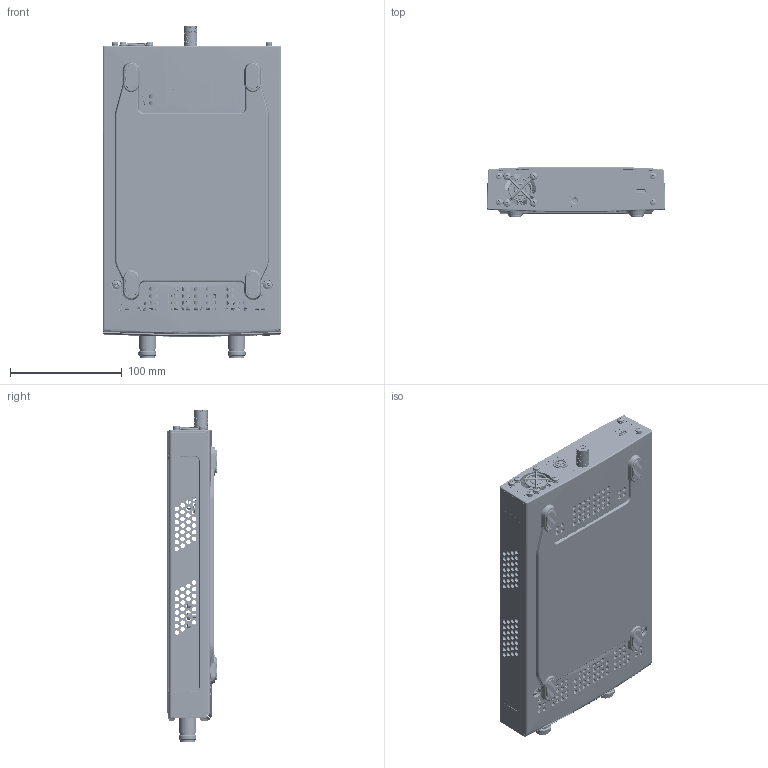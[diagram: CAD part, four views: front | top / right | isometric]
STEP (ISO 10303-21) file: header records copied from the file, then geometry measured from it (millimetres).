
FILE_DESCRIPTION (( 'STEP AP203' ), '1' );
FILE_NAME ('C.0165.00.000.00 AD VTR.STEP', '2025-08-26T13:39:32', ( '' ), ( '' ), 'SwSTEP 2.0', 'SolidWorks 2024', '' );
FILE_SCHEMA (( 'CONFIG_CONTROL_DESIGN' ));
Products named in the file (1): C.0165.00.000.00 AD VTR
Bounding box: 160 x 44 x 297.49 mm (x, y, z)
Volume: 295815.6 mm3; surface area: 313026 mm2
Topology: 119 solids, 139 shells, 12398 faces, 31576 edges, 19449 vertices
Faces by surface type: plane 5511, cylinder 3226, bspline 1585, cone 946, torus 707, sphere 423
Entity records: 437938 total; most frequent: CARTESIAN_POINT 160090, ORIENTED_EDGE 62362, DIRECTION 53370, EDGE_CURVE 31181, AXIS2_PLACEMENT_3D 19730, VERTEX_POINT 19387, LINE 13910, VECTOR 13910
